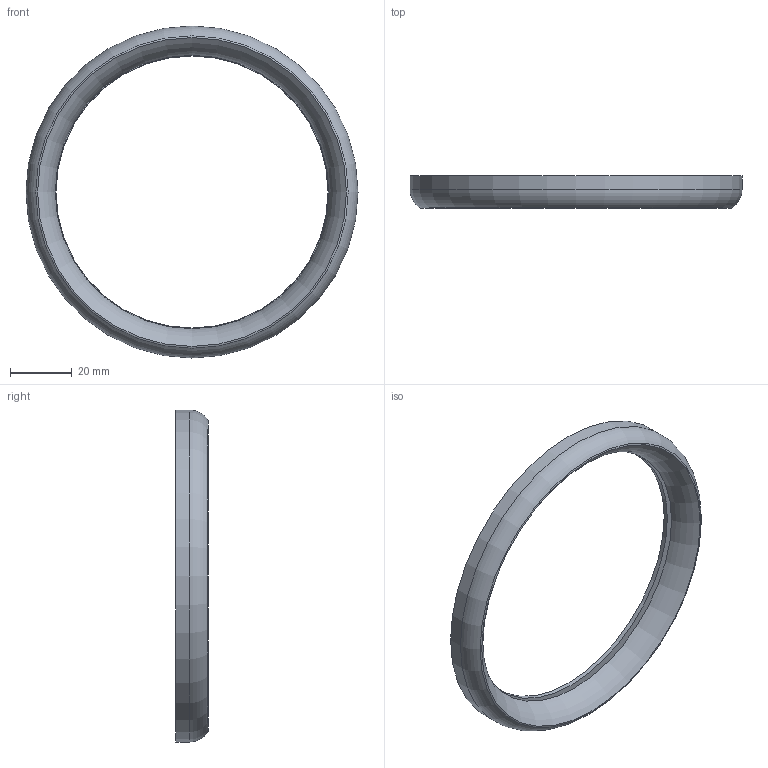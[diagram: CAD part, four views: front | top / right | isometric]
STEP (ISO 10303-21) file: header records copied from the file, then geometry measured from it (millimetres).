
FILE_DESCRIPTION (( 'STEP AP214' ), '1' );
FILE_NAME ('10FF.110.001.15R.STEP', '2026-03-27T17:27:03', ( '' ), ( '' ), 'SwSTEP 2.0', 'SolidWorks 2025', '' );
FILE_SCHEMA (( 'AUTOMOTIVE_DESIGN' ));
Length unit declared in the file: millimetre
Products named in the file (1): 10FF.110.001.15R
Bounding box: 107.5 x 10.5 x 107.5 mm (x, y, z)
Volume: 21136.6 mm3; surface area: 14266.1 mm2
Topology: 1 solids, 1 shells, 9 faces, 18 edges, 12 vertices
Faces by surface type: torus 4, plane 3, cylinder 2
Full cylindrical faces by diameter (mm): 100.579 x1, 107.5 x1
Entity records: 211 total; most frequent: DIRECTION 38, CARTESIAN_POINT 28, AXIS2_PLACEMENT_3D 19, EDGE_LOOP 18, ORIENTED_EDGE 18, FACE_OUTER_BOUND 15, CIRCLE 9, ADVANCED_FACE 9
